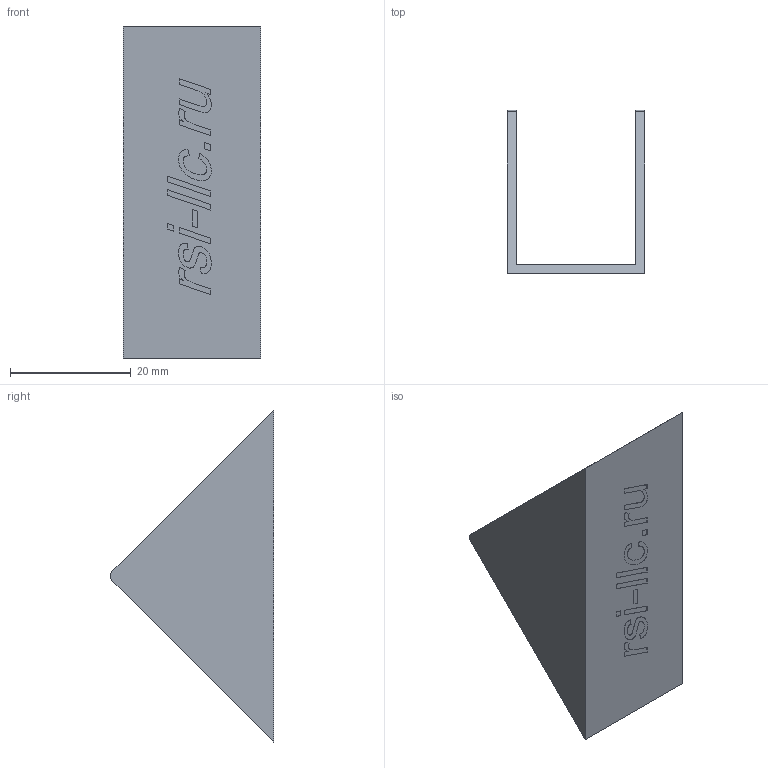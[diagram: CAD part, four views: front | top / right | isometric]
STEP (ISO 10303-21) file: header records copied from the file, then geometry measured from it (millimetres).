
FILE_DESCRIPTION (( 'STEP AP214' ), '1' );
FILE_NAME ('4108.STEP', '2021-08-18T11:50:45', ( 'Home' ), ( '' ), 'SwSTEP 2.0', 'SolidWorks 2020', '' );
FILE_SCHEMA (( 'AUTOMOTIVE_DESIGN' ));
Length unit declared in the file: millimetre
Products named in the file (1): 4108
Bounding box: 22.8 x 27.09 x 55 mm (x, y, z)
Volume: 3858.4 mm3; surface area: 5604.3 mm2
Topology: 12 solids, 12 shells, 115 faces, 273 edges, 182 vertices
Faces by surface type: plane 81, bspline 32, cylinder 2
Entity records: 6315 total; most frequent: CARTESIAN_POINT 2571, ORIENTED_EDGE 546, DIRECTION 381, EDGE_CURVE 273, VECTOR 205, LINE 205, VERTEX_POINT 182, UNCERTAINTY_MEASURE_WITH_UNIT 119
